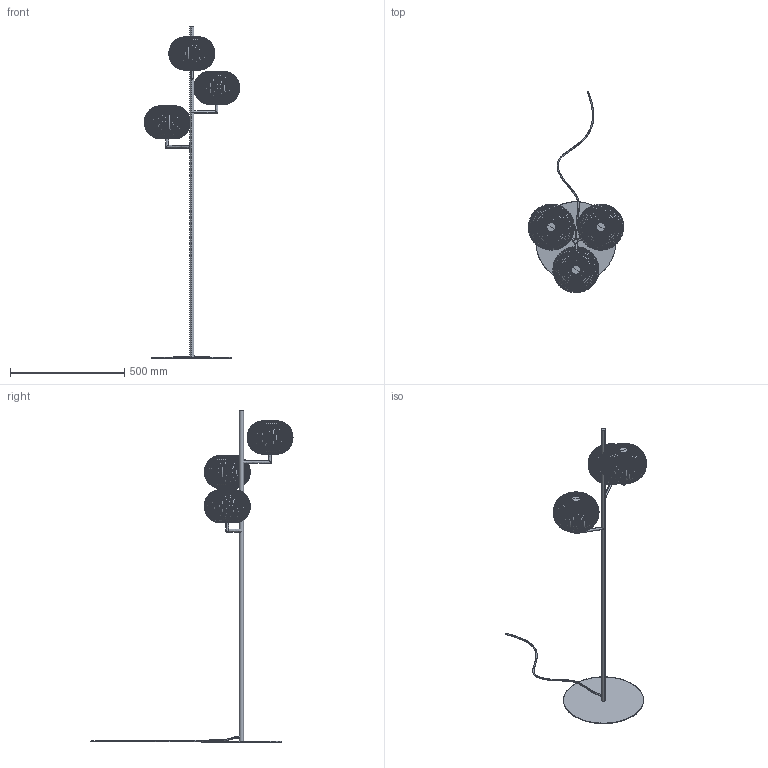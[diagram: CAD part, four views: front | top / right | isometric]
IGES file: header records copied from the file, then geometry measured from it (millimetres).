
Start section: SolidWorks IGES file using analytic representation for surfaces
Global section: file name: C:\Users\adrian\Desktop\Nueva Colección Enero 2026\3D\drive-download-20251230T145340Z-1-001\IRZO\P1353.STEP.IGS; native system: SolidWorks 2023; preprocessor: SolidWorks 2023; author: adrian; date: 251230.163116; units: millimetre
Bounding box: 416.63 x 882.56 x 1450 mm (x, y, z)
Surface area: 801451.2 mm2 (no closed solid volume)
Topology: 0 solids, 0 shells, 813 faces, 6731 edges, 6716 vertices
Faces by surface type: bspline 775, revolution 38
